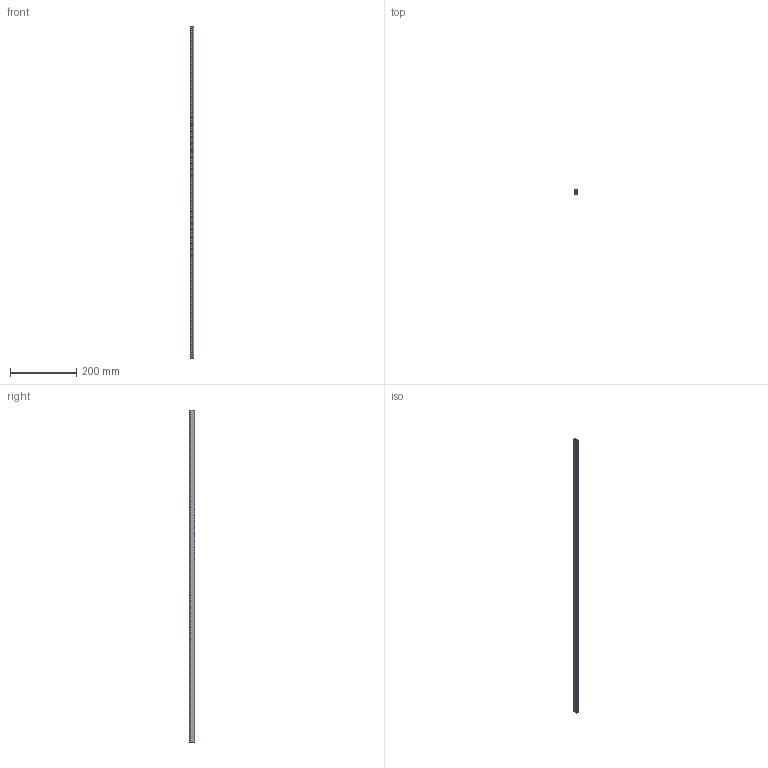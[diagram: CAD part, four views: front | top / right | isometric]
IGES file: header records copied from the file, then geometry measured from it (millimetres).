
Start section: SolidWorks IGES file using analytic representation for surfaces
Bounding box: 10.11 x 15.3 x 1000 mm (x, y, z)
Surface area: 87843.9 mm2 (no closed solid volume)
Topology: 0 solids, 0 shells, 35 faces, 382 edges, 382 vertices
Faces by surface type: bspline 20, revolution 15
